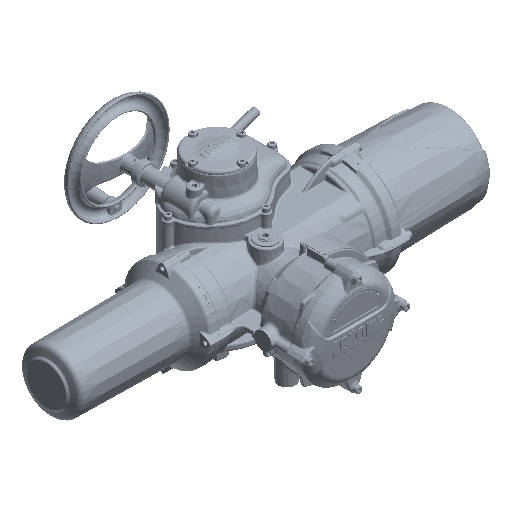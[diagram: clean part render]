
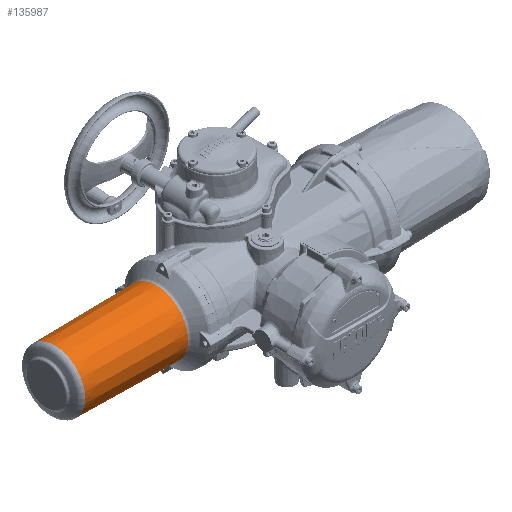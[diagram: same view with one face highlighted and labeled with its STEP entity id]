
A CAD part, isometric view. The second image highlights one B-rep face of the part: STEP entity #135987.
In plain terms, the highlighted conical face has half-angle 0.75 degrees and reference radius 65.5 mm.
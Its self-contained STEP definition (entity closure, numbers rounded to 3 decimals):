
#386=CONICAL_SURFACE('',#142509,65.5,0.013);
#12051=B_SPLINE_CURVE_WITH_KNOTS('',3,(#193041,#193042,#193043,#193044,
#193045,#193046,#193047,#193048,#193049,#193050,#193051,#193052,#193053,
#193054,#193055,#193056,#193057,#193058,#193059,#193060,#193061,#193062,
#193063,#193064,#193065,#193066,#193067,#193068,#193069,#193070),
 .UNSPECIFIED.,.T.,.F.,(1,1,1,1,1,1,1,1,1,1,1,1,1,1,1,1,1,1,1,1,1,1,1,1,
1,1,1,1,1,1,1,1,1,1),(-0.016,-0.013,-0.006,
0.,0.003,0.006,0.01,0.013,
0.016,0.019,0.022,0.026,
0.029,0.032,0.035,0.038,
0.042,0.045,0.051,0.058,
0.064,0.067,0.07,0.074,
0.077,0.08,0.083,0.086,
0.09,0.096,0.102,0.106,
0.109,0.112),.UNSPECIFIED.);
#21140=ORIENTED_EDGE('',*,*,#49243,.T.);
#21141=ORIENTED_EDGE('',*,*,#49242,.T.);
#21142=ORIENTED_EDGE('',*,*,#49241,.F.);
#49241=EDGE_CURVE('',#63481,#63481,#71968,.T.);
#49242=EDGE_CURVE('',#63482,#63482,#12051,.T.);
#49243=EDGE_CURVE('',#63483,#63483,#71969,.F.);
#63481=VERTEX_POINT('',#192944);
#63482=VERTEX_POINT('',#193071);
#63483=VERTEX_POINT('',#193074);
#71968=CIRCLE('',#142508,62.731);
#71969=CIRCLE('',#142510,65.464);
#77345=EDGE_LOOP('',(#21140));
#77346=EDGE_LOOP('',(#21141));
#77347=EDGE_LOOP('',(#21142));
#84139=FACE_BOUND('',#77345,.T.);
#84140=FACE_BOUND('',#77346,.T.);
#84141=FACE_BOUND('',#77347,.T.);
#135987=ADVANCED_FACE('',(#84139,#84140,#84141),#386,.T.);
#142508=AXIS2_PLACEMENT_3D('',#192943,#152945,#152946);
#142509=AXIS2_PLACEMENT_3D('',#193072,#152947,#152948);
#142510=AXIS2_PLACEMENT_3D('',#193073,#152949,#152950);
#152945=DIRECTION('',(-1.,0.,0.));
#152946=DIRECTION('',(0.,0.,1.));
#152947=DIRECTION('',(1.,0.,0.));
#152948=DIRECTION('',(0.,0.,-1.));
#152949=DIRECTION('',(1.,0.,0.));
#152950=DIRECTION('',(0.,0.,-1.));
#192943=CARTESIAN_POINT('',(-393.347,-60.,0.));
#192944=CARTESIAN_POINT('',(-393.347,-60.,62.731));
#193041=CARTESIAN_POINT('',(-261.185,-51.356,-63.957));
#193042=CARTESIAN_POINT('',(-265.153,-47.6,-63.222));
#193043=CARTESIAN_POINT('',(-268.938,-45.634,-62.74));
#193044=CARTESIAN_POINT('',(-272.024,-44.68,-62.47));
#193045=CARTESIAN_POINT('',(-275.207,-44.28,-62.326));
#193046=CARTESIAN_POINT('',(-278.455,-44.439,-62.323));
#193047=CARTESIAN_POINT('',(-281.574,-45.145,-62.455));
#193048=CARTESIAN_POINT('',(-284.565,-46.412,-62.706));
#193049=CARTESIAN_POINT('',(-287.218,-48.163,-63.03));
#193050=CARTESIAN_POINT('',(-289.536,-50.431,-63.388));
#193051=CARTESIAN_POINT('',(-291.318,-53.067,-63.712));
#193052=CARTESIAN_POINT('',(-292.536,-56.078,-63.957));
#193053=CARTESIAN_POINT('',(-293.057,-59.268,-64.067));
#193054=CARTESIAN_POINT('',(-292.86,-62.496,-64.025));
#193055=CARTESIAN_POINT('',(-291.946,-65.617,-63.836));
#193056=CARTESIAN_POINT('',(-289.876,-69.388,-63.44));
#193057=CARTESIAN_POINT('',(-285.928,-73.141,-62.81));
#193058=CARTESIAN_POINT('',(-279.883,-75.598,-62.296));
#193059=CARTESIAN_POINT('',(-274.446,-75.802,-62.317));
#193060=CARTESIAN_POINT('',(-270.242,-74.842,-62.61));
#193061=CARTESIAN_POINT('',(-267.3,-73.596,-62.936));
#193062=CARTESIAN_POINT('',(-264.607,-71.813,-63.335));
#193063=CARTESIAN_POINT('',(-262.339,-69.592,-63.745));
#193064=CARTESIAN_POINT('',(-260.523,-66.905,-64.121));
#193065=CARTESIAN_POINT('',(-259.331,-63.943,-64.39));
#193066=CARTESIAN_POINT('',(-258.799,-60.726,-64.516));
#193067=CARTESIAN_POINT('',(-259.068,-56.411,-64.452));
#193068=CARTESIAN_POINT('',(-261.185,-51.356,-63.957));
#193069=CARTESIAN_POINT('',(-265.153,-47.6,-63.222));
#193070=CARTESIAN_POINT('',(-268.938,-45.634,-62.74));
#193071=CARTESIAN_POINT('',(-266.15,-47.195,-63.111));
#193072=CARTESIAN_POINT('',(-181.857,-60.,0.));
#193073=CARTESIAN_POINT('',(-184.607,-60.,0.));
#193074=CARTESIAN_POINT('',(-184.607,-60.,-65.464));
